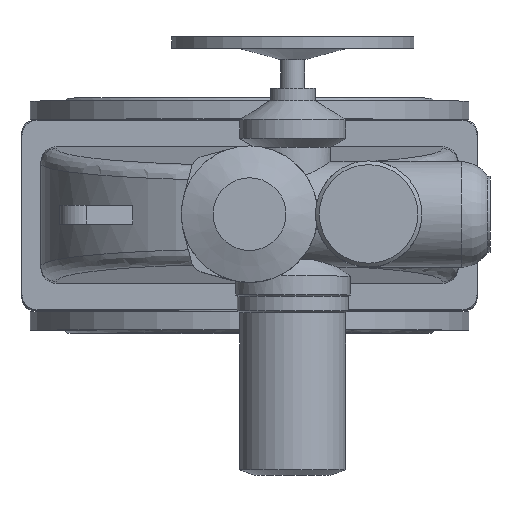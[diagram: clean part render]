
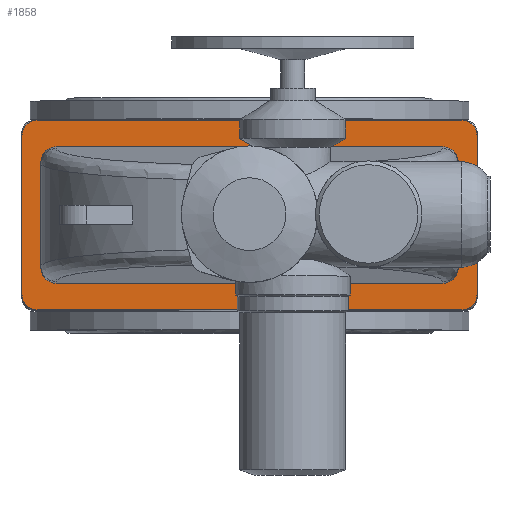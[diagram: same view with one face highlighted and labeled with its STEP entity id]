
A CAD part, top view. The second image highlights one B-rep face of the part: STEP entity #1858.
In plain terms, the highlighted planar face has unit normal (0, 0, 1).
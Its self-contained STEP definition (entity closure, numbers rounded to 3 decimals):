
#1858=ADVANCED_FACE('',(#6155,#6157),#6159,.T.);
#6155=FACE_BOUND('',#6156,.T.);
#6156=EDGE_LOOP('',(#8916,#8917,#8918,#8919,#8920,#8921,#8922,#8923));
#6157=FACE_BOUND('',#6158,.T.);
#6158=EDGE_LOOP('',(#8924,#8925,#8926,#8927,#8928,#8929,#8930,#8931));
#6159=PLANE('',#6160);
#6160=AXIS2_PLACEMENT_3D('',#6161,#6162,#6163);
#6161=CARTESIAN_POINT('',(0.,0.,466.));
#6162=DIRECTION('',(0.,-0.,1.));
#6163=DIRECTION('',(0.,1.,0.));
#8916=ORIENTED_EDGE('',*,*,#10014,.F.);
#8917=ORIENTED_EDGE('',*,*,#10027,.T.);
#8918=ORIENTED_EDGE('',*,*,#10026,.F.);
#8919=ORIENTED_EDGE('',*,*,#10024,.T.);
#8920=ORIENTED_EDGE('',*,*,#10022,.F.);
#8921=ORIENTED_EDGE('',*,*,#10020,.T.);
#8922=ORIENTED_EDGE('',*,*,#10018,.F.);
#8923=ORIENTED_EDGE('',*,*,#10015,.T.);
#8924=ORIENTED_EDGE('',*,*,#10028,.F.);
#8925=ORIENTED_EDGE('',*,*,#10029,.F.);
#8926=ORIENTED_EDGE('',*,*,#10030,.F.);
#8927=ORIENTED_EDGE('',*,*,#10031,.F.);
#8928=ORIENTED_EDGE('',*,*,#10032,.F.);
#8929=ORIENTED_EDGE('',*,*,#10033,.F.);
#8930=ORIENTED_EDGE('',*,*,#10034,.F.);
#8931=ORIENTED_EDGE('',*,*,#10035,.F.);
#10014=EDGE_CURVE('',#11239,#11237,#11241,.F.);
#10015=EDGE_CURVE('',#11242,#11237,#11243,.T.);
#10018=EDGE_CURVE('',#11242,#11245,#11247,.F.);
#10020=EDGE_CURVE('',#11248,#11245,#11250,.T.);
#10022=EDGE_CURVE('',#11248,#11251,#11253,.F.);
#10024=EDGE_CURVE('',#11254,#11251,#11256,.T.);
#10026=EDGE_CURVE('',#11254,#11257,#11259,.F.);
#10027=EDGE_CURVE('',#11239,#11257,#11260,.T.);
#10028=EDGE_CURVE('',#11261,#11262,#11263,.F.);
#10029=EDGE_CURVE('',#11264,#11261,#11265,.T.);
#10030=EDGE_CURVE('',#11266,#11264,#11267,.T.);
#10031=EDGE_CURVE('',#11268,#11266,#11269,.T.);
#10032=EDGE_CURVE('',#11270,#11268,#11271,.F.);
#10033=EDGE_CURVE('',#11272,#11270,#11273,.T.);
#10034=EDGE_CURVE('',#11274,#11272,#11275,.T.);
#10035=EDGE_CURVE('',#11262,#11274,#11276,.T.);
#11237=VERTEX_POINT('',#16105);
#11239=VERTEX_POINT('',#16109);
#11241=CIRCLE('',#16113,20.);
#11242=VERTEX_POINT('',#16117);
#11243=LINE('',#16118,#16119);
#11245=VERTEX_POINT('',#16124);
#11247=CIRCLE('',#16128,20.);
#11248=VERTEX_POINT('',#16132);
#11250=LINE('',#16136,#16137);
#11251=VERTEX_POINT('',#16139);
#11253=CIRCLE('',#16143,20.);
#11254=VERTEX_POINT('',#16147);
#11256=LINE('',#16151,#16152);
#11257=VERTEX_POINT('',#16154);
#11259=CIRCLE('',#16158,20.);
#11260=LINE('',#16162,#16163);
#11261=VERTEX_POINT('',#16165);
#11262=VERTEX_POINT('',#16166);
#11263=(BOUNDED_CURVE()B_SPLINE_CURVE(3,
(#16167,#16168,#16169,#16170),
.UNSPECIFIED.,.F.,.F.)B_SPLINE_CURVE_WITH_KNOTS((4,4),
(0.,1.),
.UNSPECIFIED.)CURVE()GEOMETRIC_REPRESENTATION_ITEM()RATIONAL_B_SPLINE_CURVE((1.,
0.805,0.805,1.))REPRESENTATION_ITEM(''));
#11264=VERTEX_POINT('',#16171);
#11265=LINE('',#16172,#16173);
#11266=VERTEX_POINT('',#16175);
#11267=(BOUNDED_CURVE()B_SPLINE_CURVE(3,
(#16176,#16177,#16178,#16179),
.UNSPECIFIED.,.F.,.F.)B_SPLINE_CURVE_WITH_KNOTS((4,4),
(0.,1.),
.UNSPECIFIED.)CURVE()GEOMETRIC_REPRESENTATION_ITEM()RATIONAL_B_SPLINE_CURVE((1.,
0.805,0.805,1.))REPRESENTATION_ITEM(''));
#11268=VERTEX_POINT('',#16180);
#11269=LINE('',#16181,#16182);
#11270=VERTEX_POINT('',#16184);
#11271=(BOUNDED_CURVE()B_SPLINE_CURVE(3,
(#16185,#16186,#16187,#16188),
.UNSPECIFIED.,.F.,.F.)B_SPLINE_CURVE_WITH_KNOTS((4,4),
(0.,1.),
.UNSPECIFIED.)CURVE()GEOMETRIC_REPRESENTATION_ITEM()RATIONAL_B_SPLINE_CURVE((1.,
0.805,0.805,1.))REPRESENTATION_ITEM(''));
#11272=VERTEX_POINT('',#16189);
#11273=LINE('',#16190,#16191);
#11274=VERTEX_POINT('',#16193);
#11275=(BOUNDED_CURVE()B_SPLINE_CURVE(3,
(#16194,#16195,#16196,#16197),
.UNSPECIFIED.,.F.,.F.)B_SPLINE_CURVE_WITH_KNOTS((4,4),
(0.,1.),
.UNSPECIFIED.)CURVE()GEOMETRIC_REPRESENTATION_ITEM()RATIONAL_B_SPLINE_CURVE((1.,
0.805,0.805,1.))REPRESENTATION_ITEM(''));
#11276=LINE('',#16198,#16199);
#16105=CARTESIAN_POINT('',(-300.,-105.,466.));
#16109=CARTESIAN_POINT('',(-280.,-125.,466.));
#16113=AXIS2_PLACEMENT_3D('',#16114,#16115,#16116);
#16114=CARTESIAN_POINT('',(-280.,-105.,466.));
#16115=DIRECTION('',(0.,-0.,1.));
#16116=DIRECTION('',(-1.,0.,0.));
#16117=CARTESIAN_POINT('',(-300.,105.,466.));
#16118=CARTESIAN_POINT('',(-300.,105.,466.));
#16119=VECTOR('',#16120,1.);
#16120=DIRECTION('',(0.,-1.,0.));
#16124=CARTESIAN_POINT('',(-280.,125.,466.));
#16128=AXIS2_PLACEMENT_3D('',#16129,#16130,#16131);
#16129=CARTESIAN_POINT('',(-280.,105.,466.));
#16130=DIRECTION('',(0.,-0.,1.));
#16131=DIRECTION('',(0.,1.,0.));
#16132=CARTESIAN_POINT('',(280.,125.,466.));
#16136=CARTESIAN_POINT('',(280.,125.,466.));
#16137=VECTOR('',#16138,1.);
#16138=DIRECTION('',(-1.,0.,0.));
#16139=CARTESIAN_POINT('',(300.,105.,466.));
#16143=AXIS2_PLACEMENT_3D('',#16144,#16145,#16146);
#16144=CARTESIAN_POINT('',(280.,105.,466.));
#16145=DIRECTION('',(0.,-0.,1.));
#16146=DIRECTION('',(1.,0.,0.));
#16147=CARTESIAN_POINT('',(300.,-105.,466.));
#16151=CARTESIAN_POINT('',(300.,-105.,466.));
#16152=VECTOR('',#16153,1.);
#16153=DIRECTION('',(0.,1.,0.));
#16154=CARTESIAN_POINT('',(280.,-125.,466.));
#16158=AXIS2_PLACEMENT_3D('',#16159,#16160,#16161);
#16159=CARTESIAN_POINT('',(280.,-105.,466.));
#16160=DIRECTION('',(0.,-0.,1.));
#16161=DIRECTION('',(0.,-1.,0.));
#16162=CARTESIAN_POINT('',(-280.,-125.,466.));
#16163=VECTOR('',#16164,1.);
#16164=DIRECTION('',(1.,0.,0.));
#16165=CARTESIAN_POINT('',(255.,-90.,466.));
#16166=CARTESIAN_POINT('',(275.,-69.924,466.));
#16167=CARTESIAN_POINT('',(275.,-69.924,466.));
#16168=CARTESIAN_POINT('',(275.,-81.684,466.));
#16169=CARTESIAN_POINT('',(266.716,-90.,466.));
#16170=CARTESIAN_POINT('',(255.,-90.,466.));
#16171=CARTESIAN_POINT('',(-255.,-90.,466.));
#16172=CARTESIAN_POINT('',(-255.,-90.,466.));
#16173=VECTOR('',#16174,1.);
#16174=DIRECTION('',(1.,0.,0.));
#16175=CARTESIAN_POINT('',(-275.,-69.924,466.));
#16176=CARTESIAN_POINT('',(-275.,-69.924,466.));
#16177=CARTESIAN_POINT('',(-275.,-81.684,466.));
#16178=CARTESIAN_POINT('',(-266.716,-90.,466.));
#16179=CARTESIAN_POINT('',(-255.,-90.,466.));
#16180=CARTESIAN_POINT('',(-275.,69.924,466.));
#16181=CARTESIAN_POINT('',(-275.,69.924,466.));
#16182=VECTOR('',#16183,1.);
#16183=DIRECTION('',(0.,-1.,0.));
#16184=CARTESIAN_POINT('',(-255.,90.,466.));
#16185=CARTESIAN_POINT('',(-275.,69.924,466.));
#16186=CARTESIAN_POINT('',(-275.,81.684,466.));
#16187=CARTESIAN_POINT('',(-266.716,90.,466.));
#16188=CARTESIAN_POINT('',(-255.,90.,466.));
#16189=CARTESIAN_POINT('',(255.,90.,466.));
#16190=CARTESIAN_POINT('',(255.,90.,466.));
#16191=VECTOR('',#16192,1.);
#16192=DIRECTION('',(-1.,0.,0.));
#16193=CARTESIAN_POINT('',(275.,69.924,466.));
#16194=CARTESIAN_POINT('',(275.,69.924,466.));
#16195=CARTESIAN_POINT('',(275.,81.684,466.));
#16196=CARTESIAN_POINT('',(266.716,90.,466.));
#16197=CARTESIAN_POINT('',(255.,90.,466.));
#16198=CARTESIAN_POINT('',(275.,-69.924,466.));
#16199=VECTOR('',#16200,1.);
#16200=DIRECTION('',(0.,1.,0.));
